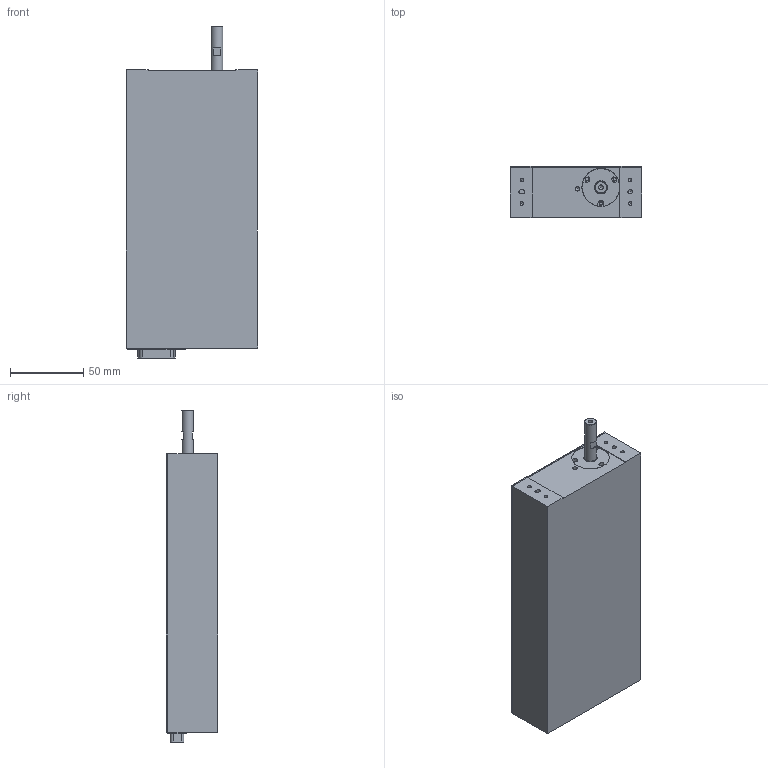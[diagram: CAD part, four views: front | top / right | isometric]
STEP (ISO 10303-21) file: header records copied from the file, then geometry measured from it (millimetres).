
FILE_DESCRIPTION((''),'2;1');
FILE_NAME('F:\Documents\TO ADRIANA\LAR35-025-55F.stp','2008-02-04T07:34:37',('kstan'),(''),'Autodesk Inventor 2008','Autodesk Inventor 2008','');
FILE_SCHEMA(('AUTOMOTIVE_DESIGN { 1 0 10303 214 1 1 1 1 }'));
Length unit declared in the file: millimetre
Products named in the file (1): LAR35-025-55F
Bounding box: 90 x 35 x 226.8 mm (x, y, z)
Volume: 591913.9 mm3; surface area: 91738.5 mm2
Topology: 2 solids, 2 shells, 209 faces, 492 edges, 327 vertices
Faces by surface type: plane 103, bspline 56, cylinder 49, cone 1
Full cylindrical faces by diameter (mm): 1 x9, 1.212 x17, 2.3 x3, 3 x2, 8 x1, 26 x1
Entity records: 5927 total; most frequent: CARTESIAN_POINT 1793, DIRECTION 833, ORIENTED_EDGE 706, EDGE_CURVE 353, EDGE_LOOP 353, AXIS2_PLACEMENT_3D 326, VERTEX_POINT 278, FACE_OUTER_BOUND 209
